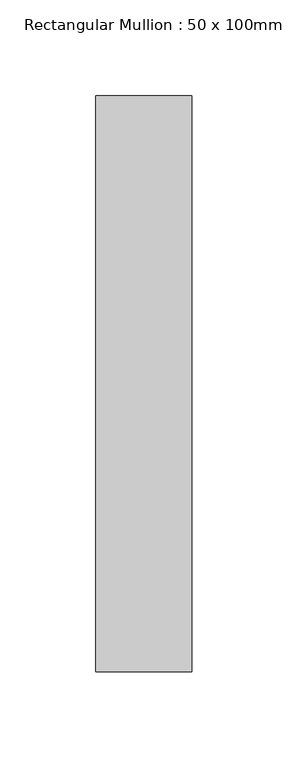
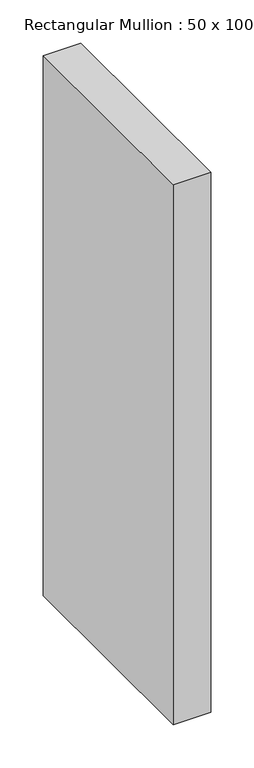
"""IFC4 building model written with IfcOpenShell, lengths in millimetres: member geometry, Rectangular Mullion : 50 x 100mm."""

from ifc_helpers import new_model, si_unit, frame, origin, place, context, project, spatial, polyline, outline, extrude, source, transform, mapped, element, save


def rectangular_mullion_50_x_100mm_a1e9fdaf(model_context):
    return source(origin(), model_context, "Body", "SweptSolid", [
        extrude(outline(polyline([(0.0, 175.0), (0.0, -125.0), (-50.0, -125.0), (-50.0, 175.0), (0.0, 175.0)])), frame((0.0, 0.0, -761.75), z_axis=(0.0, 0.0, 1.0), x_axis=(1.0, 0.0, 0.0)), (0.0, 0.0, 1.0), 761.75),
    ])


if __name__ == "__main__":
    model = new_model("IFC4")
    model_context = context("Model", 3, world=origin())
    ifc_project = project(units=[si_unit("LENGTHUNIT", "METRE", prefix="MILLI")], contexts=[model_context])
    site = spatial("IfcSite", under=ifc_project)
    building = spatial("IfcBuilding", under=site)
    placement = place(None, origin())
    rectangular_mullion_50_x_100mm_shape = rectangular_mullion_50_x_100mm_a1e9fdaf(model_context)
    element("IfcMember", 1, ObjectType="Rectangular Mullion : 50 x 100mm", at=placement, inside=building, context=model_context, shape_type="MappedRepresentation", body=[
        mapped(rectangular_mullion_50_x_100mm_shape, transform((0.0, 0.0, 0.0), x_axis=(1.0, 0.0, 0.0), y_axis=(0.0, 1.0, 0.0), z_axis=(0.0, 0.0, 1.0))),
    ])
    save(model, "model.ifc")
